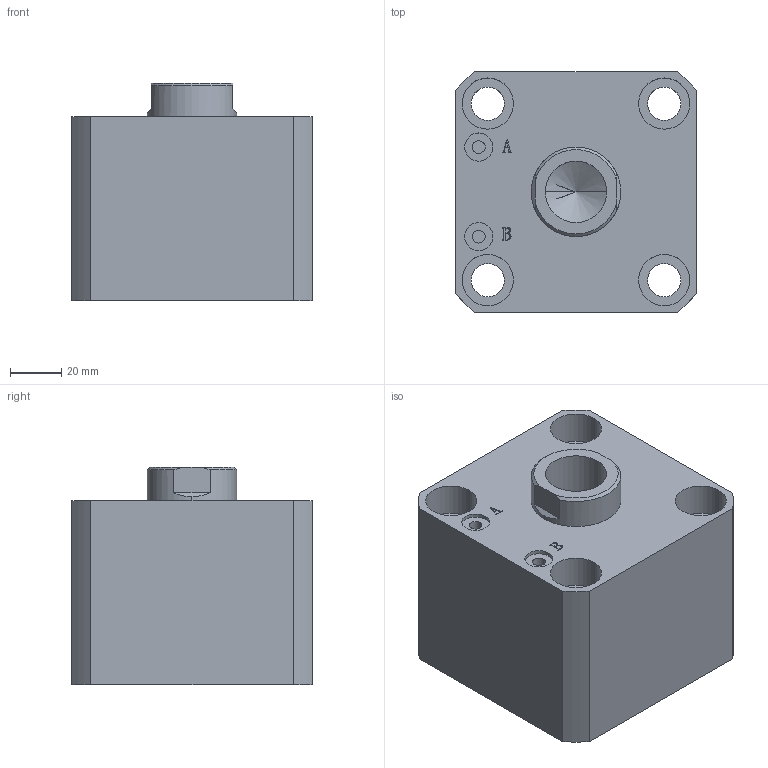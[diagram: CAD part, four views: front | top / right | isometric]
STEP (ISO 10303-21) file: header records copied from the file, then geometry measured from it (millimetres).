
FILE_DESCRIPTION (( 'STEP AP203' ), '1' );
FILE_NAME ('HTB-SDMA63-5N.STEP', '2019-10-08T00:56:09', ( '微软用户' ), ( '微软中国' ), 'SwSTEP 2.0', 'SolidWorks 2012', '' );
FILE_SCHEMA (( 'CONFIG_CONTROL_DESIGN' ));
Length unit declared in the file: millimetre
Products named in the file (3): HTB-SDMA63-5N; HTB-SDMA63-5N活塞杆; HTB-SDMA63-5掛极
Assembly tree (2 placements, depth 2):
  HTB-SDMA63-5N
    HTB-SDMA63-5掛极
    HTB-SDMA63-5N活塞杆
Bounding box: 94 x 94 x 85 mm (x, y, z)
Volume: 553837.5 mm3; surface area: 87577.8 mm2
Topology: 2 solids, 2 shells, 137 faces, 331 edges, 217 vertices
Faces by surface type: plane 65, cylinder 46, bspline 16, torus 6, cone 4
Entity records: 5070 total; most frequent: CARTESIAN_POINT 1576, ORIENTED_EDGE 658, DIRECTION 647, EDGE_CURVE 329, AXIS2_PLACEMENT_3D 232, VERTEX_POINT 217, LINE 183, VECTOR 183
